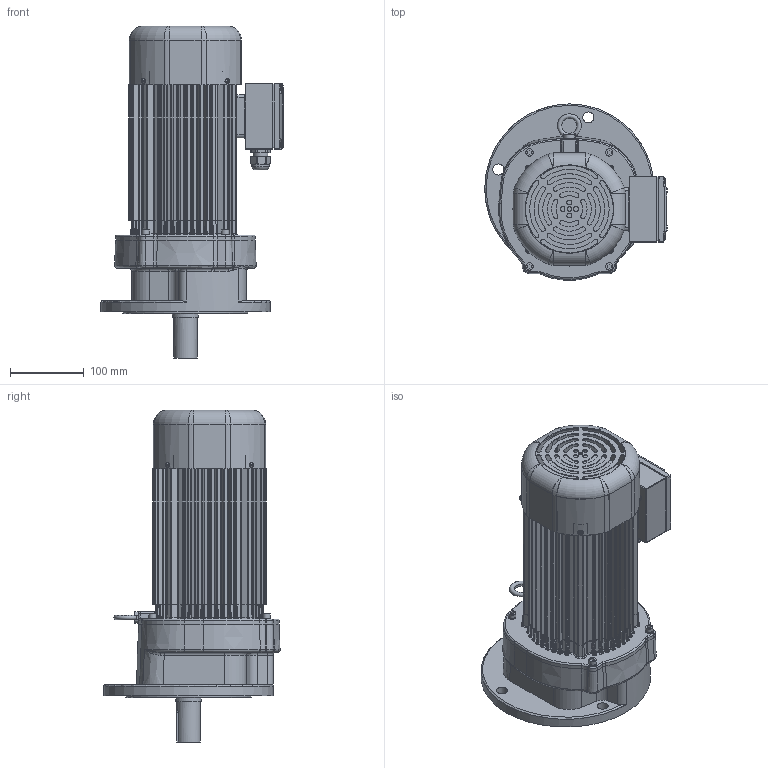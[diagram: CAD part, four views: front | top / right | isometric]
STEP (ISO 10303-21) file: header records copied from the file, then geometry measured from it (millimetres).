
FILE_DESCRIPTION(/* description */ (''),/* implementation_level */ '2;1');
FILE_NAME(/* name */ 'Z:\동력 3D 파일\PMK135_0.75kW_Brake_3D.stp',/* time_stamp */ '2021-11-18T16:40:54+09:00',/* author */ ('jaebok'),/* organization */ (''),/* preprocessor_version */ 'ST-DEVELOPER v18.1',/* originating_system */ 'Autodesk Inventor 2022',/* authorisation */ '');
FILE_SCHEMA (('AUTOMOTIVE_DESIGN { 1 0 10303 214 3 1 1 }'));
Products named in the file (1): 부품11
Bounding box: 248 x 239.45 x 451 mm (x, y, z)
Volume: 2948856.9 mm3; surface area: 818923.6 mm2
Topology: 1 solids, 30 shells, 3080 faces, 7901 edges, 4736 vertices
Faces by surface type: plane 1024, cylinder 896, bspline 696, torus 270, cone 118, sphere 76
Full cylindrical faces by diameter (mm): 3.25 x1, 3.6 x4, 4 x17, 4.917 x3, 5 x15, 5.5 x4, 6 x9, 6.8 x5, 7 x13, 8 x7, 9.5 x4, 10 x5, 12 x1, 12.5 x1, 15 x5, 20 x2, 20.6 x1, 21 x2, 22 x1, 23.6 x1, 25 x1, 28 x1, 32 x2, 35 x5, 36 x1, 42 x2, 50 x2, 52 x1, 60 x1, 70 x1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
Entity records: 122817 total; most frequent: CARTESIAN_POINT 48995, ORIENTED_EDGE 15390, DIRECTION 13958, EDGE_CURVE 7695, AXIS2_PLACEMENT_3D 5519, VERTEX_POINT 4734, EDGE_LOOP 3267, FACE_OUTER_BOUND 3080
